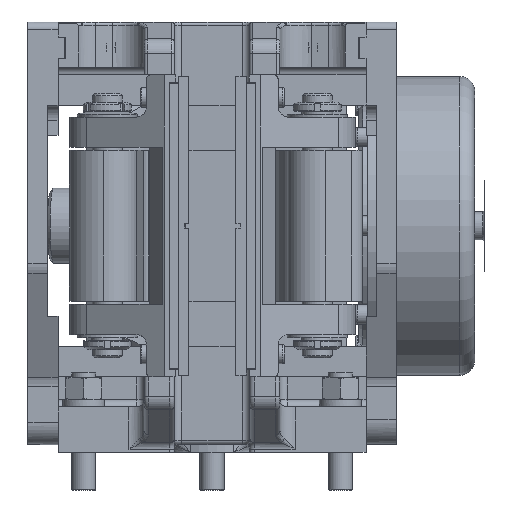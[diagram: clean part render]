
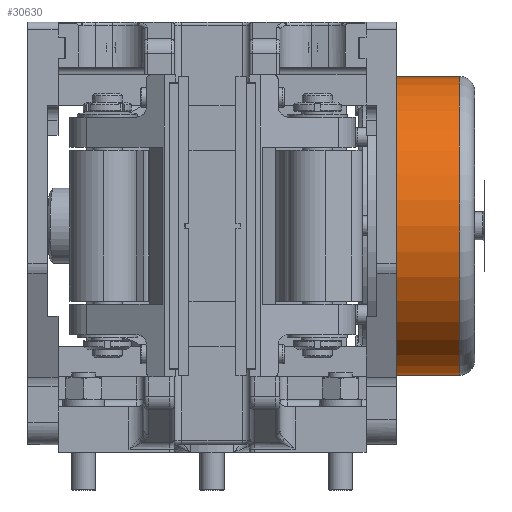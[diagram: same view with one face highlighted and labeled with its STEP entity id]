
A CAD part, front view. The second image highlights one B-rep face of the part: STEP entity #30630.
In plain terms, the highlighted cylindrical face has radius 99 mm (diameter 198 mm), a full revolution.
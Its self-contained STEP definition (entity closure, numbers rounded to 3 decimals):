
#2340=FACE_OUTER_BOUND('',#4087,.T.);
#4087=EDGE_LOOP('',(#20399,#20400,#20401,#20402,#20403,#20404,#20405,#20406,
#20407));
#5986=LINE('',#46070,#8117);
#8117=VECTOR('',#36854,99.);
#10143=CIRCLE('',#32334,99.);
#10144=CIRCLE('',#32335,99.);
#10145=CIRCLE('',#32336,99.);
#10146=CIRCLE('',#32337,99.);
#10293=CIRCLE('',#32627,99.);
#10294=CIRCLE('',#32628,99.);
#10295=CIRCLE('',#32629,99.);
#11911=VERTEX_POINT('',#45164);
#11912=VERTEX_POINT('',#45165);
#11913=VERTEX_POINT('',#45167);
#11914=VERTEX_POINT('',#45169);
#12170=VERTEX_POINT('',#46065);
#12171=VERTEX_POINT('',#46066);
#12172=VERTEX_POINT('',#46068);
#14931=EDGE_CURVE('',#11911,#11912,#10143,.T.);
#14932=EDGE_CURVE('',#11913,#11911,#10144,.T.);
#14933=EDGE_CURVE('',#11914,#11913,#10145,.T.);
#14935=EDGE_CURVE('',#11912,#11914,#10146,.T.);
#15304=EDGE_CURVE('',#12170,#12171,#10293,.T.);
#15305=EDGE_CURVE('',#12172,#12170,#10294,.T.);
#15306=EDGE_CURVE('',#12172,#11912,#5986,.T.);
#15307=EDGE_CURVE('',#12171,#12172,#10295,.T.);
#20399=ORIENTED_EDGE('',*,*,#15304,.F.);
#20400=ORIENTED_EDGE('',*,*,#15305,.F.);
#20401=ORIENTED_EDGE('',*,*,#15306,.T.);
#20402=ORIENTED_EDGE('',*,*,#14935,.T.);
#20403=ORIENTED_EDGE('',*,*,#14933,.T.);
#20404=ORIENTED_EDGE('',*,*,#14932,.T.);
#20405=ORIENTED_EDGE('',*,*,#14931,.T.);
#20406=ORIENTED_EDGE('',*,*,#15306,.F.);
#20407=ORIENTED_EDGE('',*,*,#15307,.F.);
#28377=CYLINDRICAL_SURFACE('',#32626,99.);
#30630=ADVANCED_FACE('',(#2340),#28377,.T.);
#32334=AXIS2_PLACEMENT_3D('',#45166,#36104,#36105);
#32335=AXIS2_PLACEMENT_3D('',#45168,#36106,#36107);
#32336=AXIS2_PLACEMENT_3D('',#45170,#36108,#36109);
#32337=AXIS2_PLACEMENT_3D('',#45172,#36111,#36112);
#32626=AXIS2_PLACEMENT_3D('',#46064,#36848,#36849);
#32627=AXIS2_PLACEMENT_3D('',#46067,#36850,#36851);
#32628=AXIS2_PLACEMENT_3D('',#46069,#36852,#36853);
#32629=AXIS2_PLACEMENT_3D('',#46071,#36855,#36856);
#36104=DIRECTION('center_axis',(1.,0.,0.));
#36105=DIRECTION('ref_axis',(0.,-0.174,0.985));
#36106=DIRECTION('center_axis',(1.,0.,0.));
#36107=DIRECTION('ref_axis',(0.,-0.174,0.985));
#36108=DIRECTION('center_axis',(1.,0.,0.));
#36109=DIRECTION('ref_axis',(0.,-0.174,0.985));
#36111=DIRECTION('center_axis',(1.,0.,0.));
#36112=DIRECTION('ref_axis',(0.,-0.174,0.985));
#36848=DIRECTION('center_axis',(1.,0.,0.));
#36849=DIRECTION('ref_axis',(0.,-0.174,0.985));
#36850=DIRECTION('center_axis',(1.,0.,0.));
#36851=DIRECTION('ref_axis',(0.,-0.174,0.985));
#36852=DIRECTION('center_axis',(1.,0.,0.));
#36853=DIRECTION('ref_axis',(0.,-0.174,0.985));
#36854=DIRECTION('',(-1.,0.,0.));
#36855=DIRECTION('center_axis',(1.,0.,0.));
#36856=DIRECTION('ref_axis',(0.,-0.174,0.985));
#45164=CARTESIAN_POINT('',(112.25,211.,150.));
#45165=CARTESIAN_POINT('',(112.25,327.191,52.504));
#45166=CARTESIAN_POINT('Origin',(112.25,310.,150.));
#45167=CARTESIAN_POINT('',(112.25,292.809,247.496));
#45168=CARTESIAN_POINT('Origin',(112.25,310.,150.));
#45169=CARTESIAN_POINT('',(112.25,409.,150.));
#45170=CARTESIAN_POINT('Origin',(112.25,310.,150.));
#45172=CARTESIAN_POINT('Origin',(112.25,310.,150.));
#46064=CARTESIAN_POINT('Origin',(138.122,310.,150.));
#46065=CARTESIAN_POINT('',(163.994,292.809,247.496));
#46066=CARTESIAN_POINT('',(163.994,212.504,132.809));
#46067=CARTESIAN_POINT('Origin',(163.994,310.,150.));
#46068=CARTESIAN_POINT('',(163.994,327.191,52.504));
#46069=CARTESIAN_POINT('Origin',(163.994,310.,150.));
#46070=CARTESIAN_POINT('',(138.122,327.191,52.504));
#46071=CARTESIAN_POINT('Origin',(163.994,310.,150.));
